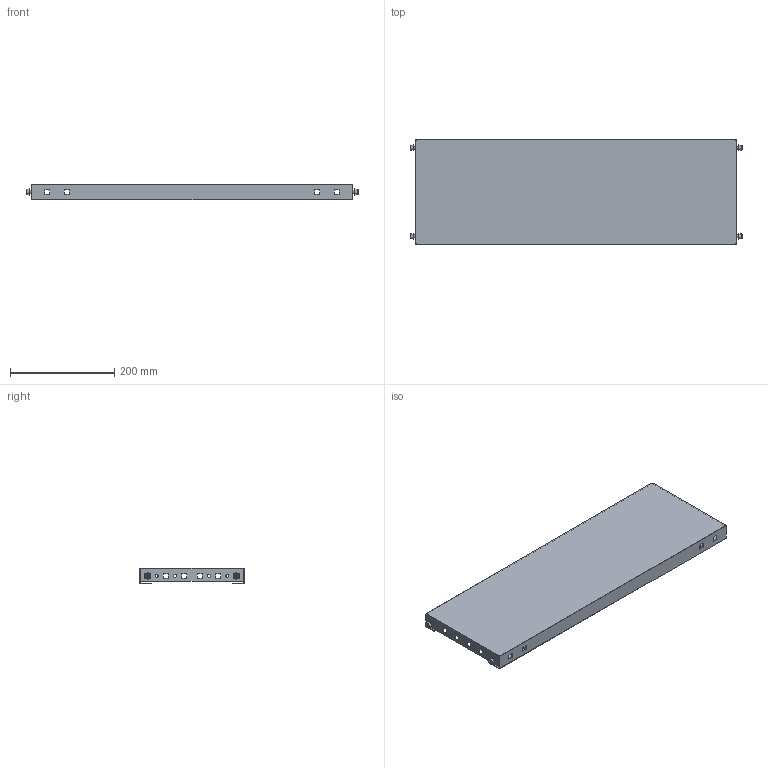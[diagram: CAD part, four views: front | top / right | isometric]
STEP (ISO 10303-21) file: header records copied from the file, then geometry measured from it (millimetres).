
FILE_DESCRIPTION(('Open CASCADE Model'),'2;1');
FILE_NAME('Open CASCADE Shape Model','2025-02-07T17:53:36',('Author'),( 'Open CASCADE'),'Open CASCADE STEP processor 7.8','Open CASCADE 7.8' ,'Unknown');
FILE_SCHEMA(('AUTOMOTIVE_DESIGN { 1 0 10303 214 1 1 1 1 }'));
Length unit declared in the file: millimetre
Products named in the file (5): Compound1; Solid1; Solid2; Solid3; Solid4
Assembly tree (13 placements, depth 2):
  Compound1
    Solid1
    Solid2  x4
    Solid3  x4
    Solid4  x4
Bounding box: 636.2 x 200 x 30 mm (x, y, z)
Volume: 290621.9 mm3; surface area: 392851.4 mm2
Topology: 13 solids, 13 shells, 764 faces, 2138 edges, 1392 vertices
Faces by surface type: plane 402, cylinder 298, cone 32, bspline 16, torus 16
Full cylindrical faces by diameter (mm): 5.5 x8, 6.5 x50
Entity records: 24875 total; most frequent: CARTESIAN_POINT 15897, ORIENTED_EDGE 1884, DIRECTION 1712, EDGE_CURVE 942, VERTEX_POINT 621, LINE 586, VECTOR 586, AXIS2_PLACEMENT_3D 563
